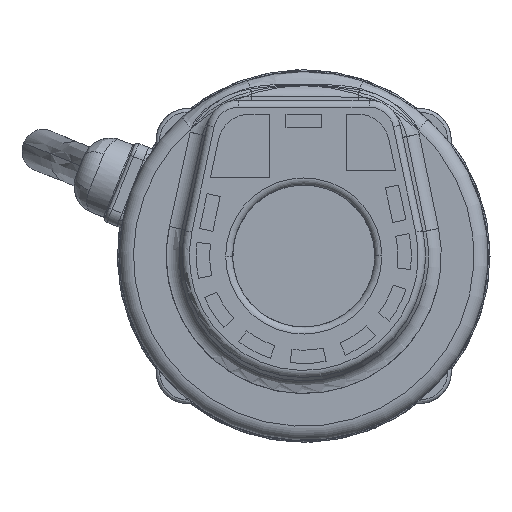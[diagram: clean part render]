
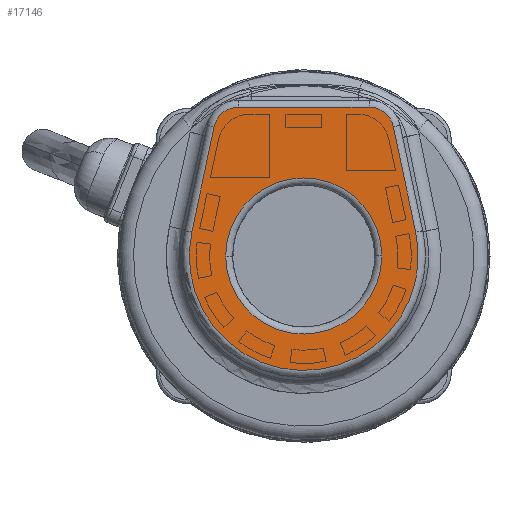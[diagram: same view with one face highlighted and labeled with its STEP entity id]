
A CAD part, front view. The second image highlights one B-rep face of the part: STEP entity #17146.
In plain terms, the highlighted planar face has unit normal (0, -1, 0).
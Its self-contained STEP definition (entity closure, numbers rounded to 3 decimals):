
#5512=CARTESIAN_POINT('',(-11.248,-495.213,
17.501));
#5513=DIRECTION('',(0.,1.,0.));
#5514=DIRECTION('',(0.,0.,1.));
#5515=AXIS2_PLACEMENT_3D('',#5512,#5513,#5514);
#5517=DIRECTION('',(0.208,0.,-0.978));
#5518=VECTOR('',#5517,15.202);
#5519=CARTESIAN_POINT('',(-7.842,-495.213,
18.225));
#5520=LINE('',#5519,#5518);
#5521=CARTESIAN_POINT('',(-20.459,-495.213,0.));
#5522=DIRECTION('',(0.,1.,0.));
#5523=DIRECTION('',(0.978,0.,0.208));
#5524=AXIS2_PLACEMENT_3D('',#5521,#5522,#5523);
#5526=CARTESIAN_POINT('',(-20.459,-495.213,0.));
#5527=DIRECTION('',(0.,1.,0.));
#5528=DIRECTION('',(0.977,0.,-0.213));
#5529=AXIS2_PLACEMENT_3D('',#5526,#5527,#5528);
#5531=DIRECTION('',(0.208,0.,0.978));
#5532=VECTOR('',#5531,15.202);
#5533=CARTESIAN_POINT('',(-36.239,-495.213,
3.353));
#5534=LINE('',#5533,#5532);
#5535=CARTESIAN_POINT('',(-29.674,-495.213,
17.499));
#5536=DIRECTION('',(0.,1.,0.));
#5537=DIRECTION('',(-0.978,0.,0.208));
#5538=AXIS2_PLACEMENT_3D('',#5535,#5536,#5537);
#5540=CARTESIAN_POINT('',(-20.459,-495.213,0.));
#5541=DIRECTION('',(0.,-1.,0.));
#5542=DIRECTION('',(-1.,0.,0.));
#5543=AXIS2_PLACEMENT_3D('',#5540,#5541,#5542);
#5545=CARTESIAN_POINT('',(-20.459,-495.213,0.));
#5546=DIRECTION('',(0.,-1.,0.));
#5547=DIRECTION('',(-1.,0.,-0.012));
#5548=AXIS2_PLACEMENT_3D('',#5545,#5546,#5547);
#5550=CARTESIAN_POINT('',(-20.459,-495.213,0.));
#5551=DIRECTION('',(0.,-1.,0.));
#5552=DIRECTION('',(1.,0.,0.));
#5553=AXIS2_PLACEMENT_3D('',#5550,#5551,#5552);
#5555=CARTESIAN_POINT('',(-20.459,-495.213,0.));
#5556=DIRECTION('',(0.,-1.,0.));
#5557=DIRECTION('',(1.,0.,0.012));
#5558=AXIS2_PLACEMENT_3D('',#5555,#5556,#5557);
#5575=DIRECTION('',(-1.,0.,0.));
#5576=VECTOR('',#5575,18.426);
#5577=CARTESIAN_POINT('',(-11.248,-495.213,
20.983));
#5578=LINE('',#5577,#5576);
#7449=CARTESIAN_POINT('',(-11.248,-495.213,
20.983));
#7450=CARTESIAN_POINT('',(-7.842,-495.213,
18.225));
#7451=VERTEX_POINT('',#7449);
#7452=VERTEX_POINT('',#7450);
#7453=CARTESIAN_POINT('',(-4.68,-495.213,
3.355));
#7454=VERTEX_POINT('',#7453);
#7455=CARTESIAN_POINT('',(-4.696,-495.213,
-3.433));
#7456=CARTESIAN_POINT('',(-36.239,-495.213,
3.353));
#7457=VERTEX_POINT('',#7455);
#7458=VERTEX_POINT('',#7456);
#7459=CARTESIAN_POINT('',(-33.08,-495.213,
18.223));
#7460=VERTEX_POINT('',#7459);
#7461=CARTESIAN_POINT('',(-29.674,-495.213,
20.982));
#7462=VERTEX_POINT('',#7461);
#7463=CARTESIAN_POINT('',(-31.458,-495.213,
-0.137));
#7464=CARTESIAN_POINT('',(-9.459,-495.213,
0.001));
#7465=VERTEX_POINT('',#7463);
#7466=VERTEX_POINT('',#7464);
#7467=CARTESIAN_POINT('',(-31.459,-495.213,
-0.001));
#7468=VERTEX_POINT('',#7467);
#7469=CARTESIAN_POINT('',(-9.46,-495.213,
0.137));
#7470=VERTEX_POINT('',#7469);
#17116=CARTESIAN_POINT('',(-20.459,-495.213,
2.425));
#17117=DIRECTION('',(0.,1.,0.));
#17118=DIRECTION('',(1.,0.,0.));
#17119=AXIS2_PLACEMENT_3D('',#17116,#17117,#17118);
#17120=PLANE('',#17119);
#17122=ORIENTED_EDGE('',*,*,#17121,.T.);
#17124=ORIENTED_EDGE('',*,*,#17123,.T.);
#17126=ORIENTED_EDGE('',*,*,#17125,.T.);
#17128=ORIENTED_EDGE('',*,*,#17127,.T.);
#17130=ORIENTED_EDGE('',*,*,#17129,.T.);
#17131=ORIENTED_EDGE('',*,*,#17106,.T.);
#17133=ORIENTED_EDGE('',*,*,#17132,.F.);
#17134=EDGE_LOOP('',(#17122,#17124,#17126,#17128,#17130,#17131,#17133));
#17135=FACE_OUTER_BOUND('',#17134,.F.);
#17137=ORIENTED_EDGE('',*,*,#17136,.T.);
#17139=ORIENTED_EDGE('',*,*,#17138,.T.);
#17141=ORIENTED_EDGE('',*,*,#17140,.T.);
#17143=ORIENTED_EDGE('',*,*,#17142,.T.);
#17144=EDGE_LOOP('',(#17137,#17139,#17141,#17143));
#17145=FACE_BOUND('',#17144,.F.);
#17146=ADVANCED_FACE('',(#17135,#17145),#17120,.F.);
#5516=CIRCLE('',#5515,3.482);
#5525=CIRCLE('',#5524,16.132);
#5530=CIRCLE('',#5529,16.132);
#5539=CIRCLE('',#5538,3.482);
#5544=CIRCLE('',#5543,11.);
#5549=CIRCLE('',#5548,11.);
#5554=CIRCLE('',#5553,11.);
#5559=CIRCLE('',#5558,11.);
#17106=EDGE_CURVE('',#7460,#7462,#5539,.T.);
#17121=EDGE_CURVE('',#7451,#7452,#5516,.T.);
#17123=EDGE_CURVE('',#7452,#7454,#5520,.T.);
#17125=EDGE_CURVE('',#7454,#7457,#5525,.T.);
#17127=EDGE_CURVE('',#7457,#7458,#5530,.T.);
#17129=EDGE_CURVE('',#7458,#7460,#5534,.T.);
#17132=EDGE_CURVE('',#7451,#7462,#5578,.T.);
#17136=EDGE_CURVE('',#7468,#7465,#5544,.T.);
#17138=EDGE_CURVE('',#7465,#7466,#5549,.T.);
#17140=EDGE_CURVE('',#7466,#7470,#5554,.T.);
#17142=EDGE_CURVE('',#7470,#7468,#5559,.T.);
